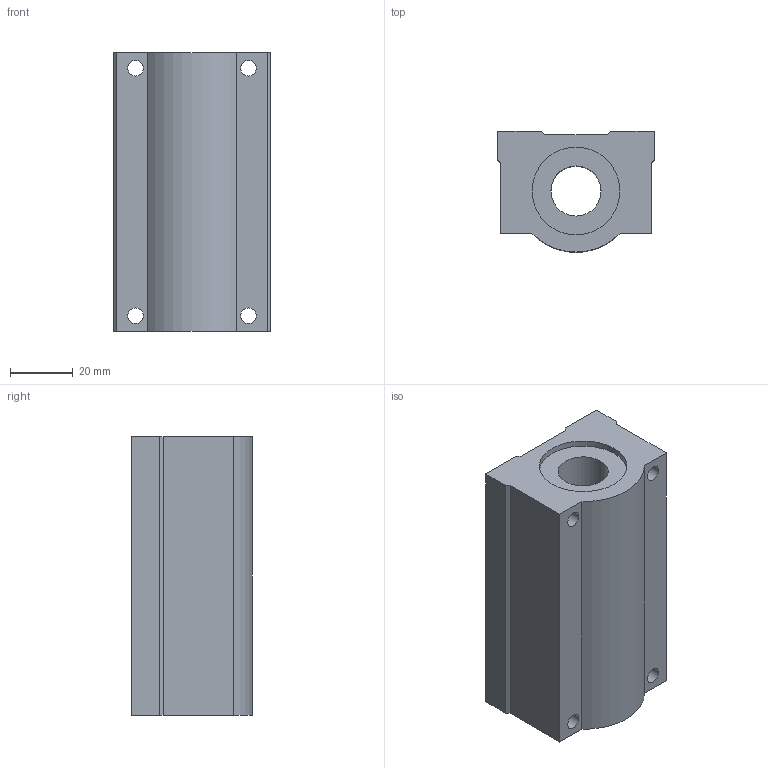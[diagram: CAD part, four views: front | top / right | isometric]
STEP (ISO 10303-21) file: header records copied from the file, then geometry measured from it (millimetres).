
FILE_DESCRIPTION((''),'2;1');
FILE_NAME('C:\Documents and Settings\ｿﾀﾀ蠑ｷ1\ｹﾙﾅﾁ ﾈｭｸ饅\ｺﾎﾇｰﾆﾄﾀﾏ\ﾁｦﾇｰ\SC__WUU\SC16WUU.stp','2005-06-22T14:55:54',('ｿﾀﾀ蠑ｷ1'),(''),'Autodesk Inventor 9','Autodesk Inventor 9','');
FILE_SCHEMA(('AUTOMOTIVE_DESIGN { 1 0 10303 214 1 1 1 1 }'));
Length unit declared in the file: millimetre
Products named in the file (1): SC__UU
Bounding box: 50 x 38.5 x 89 mm (x, y, z)
Volume: 126930.5 mm3; surface area: 24403.9 mm2
Topology: 1 solids, 1 shells, 32 faces, 84 edges, 56 vertices
Faces by surface type: plane 17, bspline 8, cylinder 7
Entity records: 1145 total; most frequent: CARTESIAN_POINT 309, ORIENTED_EDGE 168, DIRECTION 164, EDGE_CURVE 84, VERTEX_POINT 56, AXIS2_PLACEMENT_3D 55, VECTOR 54, LINE 54
